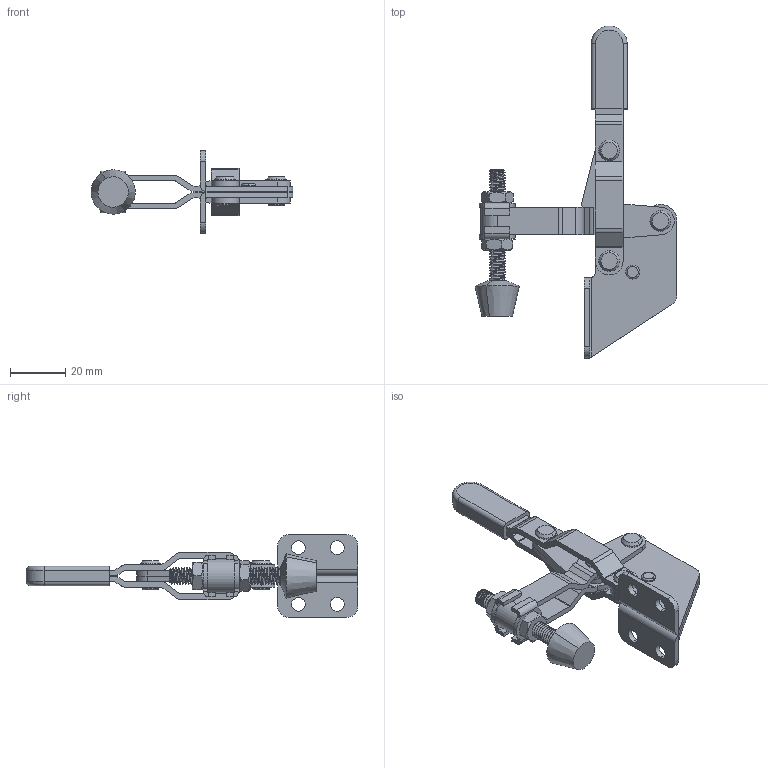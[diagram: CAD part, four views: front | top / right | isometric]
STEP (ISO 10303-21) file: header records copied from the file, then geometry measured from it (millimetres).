
FILE_DESCRIPTION (( 'STEP AP203' ), '1' );
FILE_NAME ('SK3-021H-5.STEP', '2018-11-01T08:25:21', ( 'admin' ), ( 'Microsoft' ), 'SwSTEP 2.0', 'SolidWorks 2015', '' );
FILE_SCHEMA (( 'CONFIG_CONTROL_DESIGN' ));
Length unit declared in the file: millimetre
Products named in the file (9): SK3-021H-5 蹟翐; SK3-021H-5參忒; SK3-021H-5 蜇璃2; SK3-021H-5种隊; SK3-021H-5 蜇璃3; M6蹟譫; SK3-021H-5; SK3-021H-5菁釱; SK3-021H-5 蜇璃
Assembly tree (14 placements, depth 2):
  SK3-021H-5
    SK3-021H-5菁釱
    SK3-021H-5 蜇璃
    SK3-021H-5 蹟翐
    SK3-021H-5參忒
    SK3-021H-5 蜇璃2  x2
    SK3-021H-5种隊  x4
    SK3-021H-5 蜇璃3  x2
    M6蹟譫  x2
Bounding box: 73 x 120 x 30 mm (x, y, z)
Volume: 19708.1 mm3; surface area: 21357.2 mm2
Topology: 15 solids, 15 shells, 470 faces, 1220 edges, 783 vertices
Faces by surface type: cylinder 257, plane 167, cone 31, torus 12, bspline 3
Entity records: 18349 total; most frequent: CARTESIAN_POINT 8293, ORIENTED_EDGE 1964, DIRECTION 1829, EDGE_CURVE 982, AXIS2_PLACEMENT_3D 667, VERTEX_POINT 642, LINE 495, VECTOR 495
